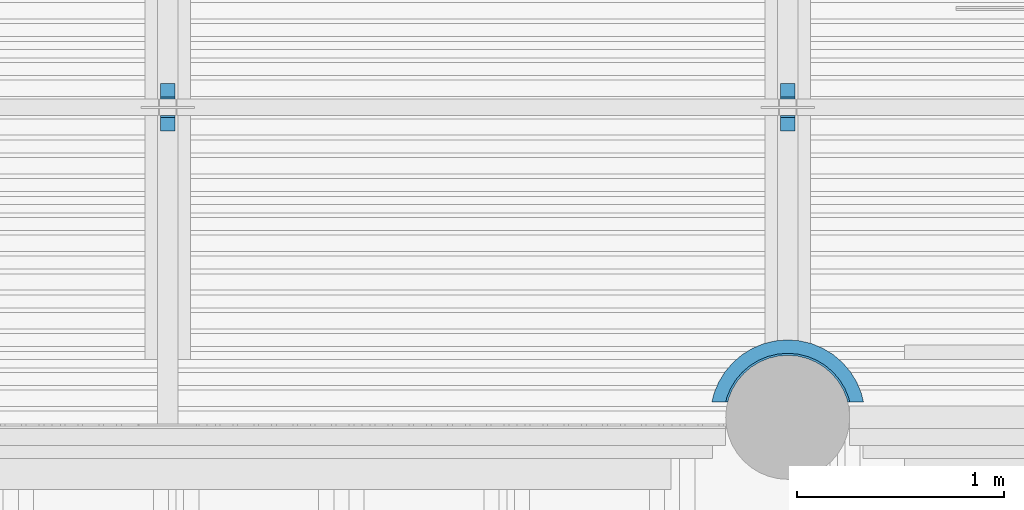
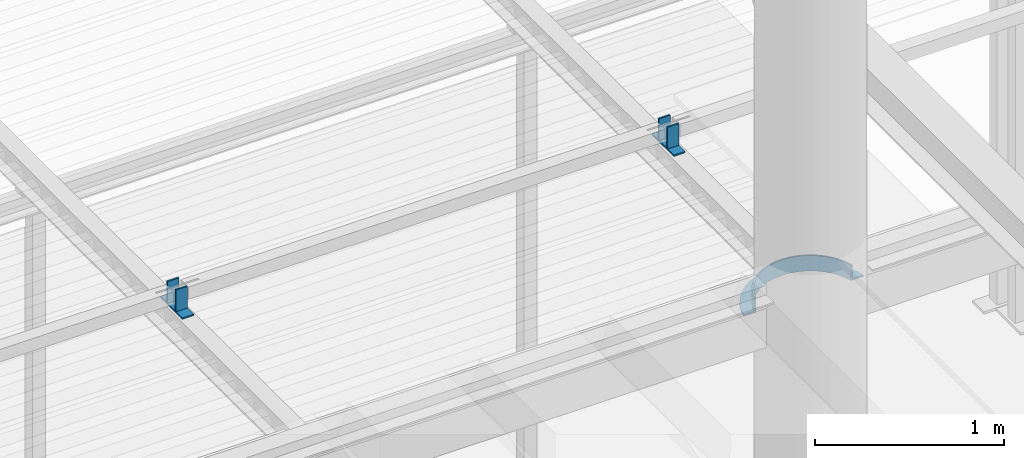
# One storey, part 30 of 98: 7 beams.
"""IFC2X3 building model written with IfcOpenShell, lengths in millimetres."""

from ifc_helpers import new_model, entity, si_unit, converted_unit, derived_unit, direction, frame, origin_with_axes, place, context, subcontext, project, spatial, faceted_brep, material, type_object, element, save


model = new_model("IFC2X3")

# Units and contexts
model_context = context("Model", 3, precision=0.01, world=frame((0.0, 4.29681676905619e-09, 0.0)), true_north=direction((4.01073788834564e-13, 1.0)))
plan_context = context("Plan", 3, precision=0.01, world=frame((0.0, 4.29681676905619e-09, 0.0)), true_north=direction((4.01073788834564e-13, 1.0)))
body_context = subcontext(model_context, "Body", "Model", "MODEL_VIEW")
ifc_project = project(units=[converted_unit("PLANEANGLEUNIT", "DEGREE", entity("IfcPositiveLengthMeasure", 0.0174532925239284), si_unit("PLANEANGLEUNIT", "RADIAN"), dimensions=[0, 0, 0, 0, 0, 0, 0]), si_unit("AREAUNIT", "SQUARE_METRE"), si_unit("LENGTHUNIT", "METRE", prefix="MILLI"), si_unit("MASSUNIT", "GRAM", prefix="KILO"), si_unit("POWERUNIT", "WATT"), si_unit("PRESSUREUNIT", "PASCAL"), si_unit("FORCEUNIT", "NEWTON", prefix="KILO"), si_unit("ELECTRICCURRENTUNIT", "AMPERE"), si_unit("THERMODYNAMICTEMPERATUREUNIT", "DEGREE_CELSIUS"), si_unit("TIMEUNIT", "SECOND"), si_unit("VOLUMEUNIT", "CUBIC_METRE"), derived_unit("LINEARVELOCITYUNIT", [(si_unit("LENGTHUNIT", "METRE"), 1), (si_unit("TIMEUNIT", "SECOND"), -1)]), derived_unit("VOLUMETRICFLOWRATEUNIT", [(si_unit("VOLUMEUNIT", "CUBIC_METRE"), 1), (si_unit("TIMEUNIT", "SECOND"), -1)]), derived_unit("THERMALTRANSMITTANCEUNIT", [(si_unit("POWERUNIT", "WATT"), 1), (si_unit("THERMODYNAMICTEMPERATUREUNIT", "KELVIN"), -1), (si_unit("AREAUNIT", "SQUARE_METRE"), -1)])], contexts=[model_context, plan_context])

# Site, building, storey
site_placement = place(None, frame((0.0, -4.29681676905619e-09, 0.0), z_axis=(0.0, 0.0, 1.0), x_axis=(1.0, 0.0, 0.0)))
site = spatial("IfcSite", under=ifc_project, at=site_placement, Name="Gardermoen", CompositionType="ELEMENT")
building_placement = place(site_placement, frame((0.0, 4.29681676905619e-09, 0.0), z_axis=(0.0, 0.0, 1.0), x_axis=(1.0, 0.0, 0.0)))
building = spatial("IfcBuilding", under=site, at=building_placement, Name="TS", CompositionType="ELEMENT")
storey_placement = place(building_placement, origin_with_axes())
storey = spatial("IfcBuildingStorey", under=building, at=storey_placement, Name="D", CompositionType="ELEMENT", Elevation=0.0)

# Beams
ifc_material = material(Name="STEEL/S355")
beam_type_1 = type_object("IfcBeamType", Name="L100*75*10", PredefinedType="NOTDEFINED")
beam_1_placement = place(storey_placement, frame((529337.500000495, 414500.000008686, 206955.001811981), z_axis=(0.0, 0.0, 1.0), x_axis=(-0.999999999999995, -9.99999902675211e-08, 0.0)))
element("IfcBeam", 1, at=beam_1_placement, inside=storey, type_object=beam_type_1, material=ifc_material, Name="STÅLBJELKE", ObjectType="L100*75*10", context=body_context, shape_type="Brep", body=[
    faceted_brep([(703.969918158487, -74.9815468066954, -40.0), (703.969918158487, -74.9815468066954, -50.0), (627.076084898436, -74.9834765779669, -50.0), (627.076084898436, -74.9834765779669, 50.0), (637.328595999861, -74.9832192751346, 50.0), (637.328595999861, -74.9832192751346, -40.0), (47.9318965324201, -74.9980331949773, 49.9979063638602), (47.9318965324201, -74.9980331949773, -50.0), (-28.9610138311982, -74.9999475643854, -50.0), (-28.9610138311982, -74.9999475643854, -40.0), (37.6795084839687, -74.9982884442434, -40.0), (37.6795084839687, -74.9982884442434, 50.0), (42.6725930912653, -95.7959826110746, 50.0), (42.6725930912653, -95.7959826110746, -40.0), (61.2882294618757, -140.73810440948, -40.0), (61.2882294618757, -140.73810440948, 50.0), (86.7051603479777, -182.214747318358, -40.0), (86.7051603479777, -182.214747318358, 50.0), (118.297555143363, -219.204689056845, -40.0), (118.297555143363, -219.204689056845, 50.0), (155.287496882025, -250.797083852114, -40.0), (155.287496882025, -250.797083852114, 50.0), (196.764170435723, -276.214022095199, -40.0), (196.764170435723, -276.214022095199, 50.0), (241.706282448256, -294.829654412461, -40.0), (241.706282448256, -294.829654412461, 50.0), (289.007208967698, -306.185602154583, -40.0), (289.007208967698, -306.185602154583, 50.0), (337.502244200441, -310.002244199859, -40.0), (337.502244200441, -310.002244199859, 50.0), (385.997279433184, -306.185602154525, -40.0), (385.997279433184, -306.185602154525, 50.0), (433.298205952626, -294.829654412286, -40.0), (433.298205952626, -294.829654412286, 50.0), (478.240317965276, -276.214022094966, -40.0), (478.240317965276, -276.214022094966, 50.0), (519.716991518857, -250.797083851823, -40.0), (519.716991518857, -250.797083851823, 50.0), (556.706933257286, -219.204689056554, -40.0), (556.706933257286, -219.204689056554, 50.0), (588.299328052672, -182.21474731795, -40.0), (588.299328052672, -182.21474731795, 50.0), (613.716266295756, -140.738073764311, -40.0), (613.716266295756, -140.738073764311, 50.0), (632.331898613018, -95.7959617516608, -40.0), (632.331898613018, -95.7959617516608, 50.0), (694.15057217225, -115.882066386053, -40.0), (671.63169036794, -170.247456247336, -40.0), (640.885432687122, -220.420788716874, -40.0), (602.668874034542, -265.166629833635, -40.0), (557.923032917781, -303.383188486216, -40.0), (507.749700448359, -334.129446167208, -40.0), (453.384310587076, -356.648327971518, -40.0), (396.165519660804, -370.385344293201, -40.0), (337.502244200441, -375.002244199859, -40.0), (278.838968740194, -370.38534429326, -40.0), (221.620177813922, -356.648327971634, -40.0), (167.254787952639, -334.129446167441, -40.0), (117.081455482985, -303.383188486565, -40.0), (72.3356143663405, -265.166629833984, -40.0), (34.1190557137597, -220.42078871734, -40.0), (3.37280538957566, -170.247486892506, -40.0), (-19.1460804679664, -115.882087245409, -40.0), (-19.1460804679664, -115.882087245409, -50.0), (3.37280538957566, -170.247486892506, -50.0), (34.1190557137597, -220.42078871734, -50.0), (72.3356143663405, -265.166629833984, -50.0), (117.081455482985, -303.383188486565, -50.0), (167.254787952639, -334.129446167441, -50.0), (221.620177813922, -356.648327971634, -50.0), (278.838968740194, -370.38534429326, -50.0), (337.502244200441, -375.002244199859, -50.0), (396.165519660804, -370.385344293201, -50.0), (453.384310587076, -356.648327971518, -50.0), (507.749700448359, -334.129446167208, -50.0), (557.923032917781, -303.383188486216, -50.0), (602.668874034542, -265.166629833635, -50.0), (640.885432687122, -220.420788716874, -50.0), (671.63169036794, -170.247456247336, -50.0), (694.15057217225, -115.882066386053, -50.0), (604.806201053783, -136.198168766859, -50.0), (622.821333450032, -92.7057918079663, -50.0), (580.209158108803, -176.336894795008, -50.0), (549.635865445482, -212.133621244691, -50.0), (513.839138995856, -242.706913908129, -50.0), (473.700412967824, -267.303956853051, -50.0), (430.208036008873, -285.319089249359, -50.0), (384.432934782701, -296.308718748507, -50.0), (337.502244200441, -300.002244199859, -50.0), (290.571553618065, -296.308718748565, -50.0), (244.796452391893, -285.319089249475, -50.0), (201.304075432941, -267.303956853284, -50.0), (161.16534940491, -242.706913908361, -50.0), (125.368622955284, -212.133621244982, -50.0), (94.7953302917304, -176.336894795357, -50.0), (70.1982947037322, -136.198199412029, -50.0), (52.1831582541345, -92.7058126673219, -50.0), (52.1831582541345, -92.7058126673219, 50.0), (70.1982947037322, -136.198199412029, 50.0), (94.7953302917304, -176.336894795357, 50.0), (125.368622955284, -212.133621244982, 50.0), (161.16534940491, -242.706913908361, 50.0), (201.304075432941, -267.303956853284, 50.0), (244.796452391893, -285.319089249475, 50.0), (290.571553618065, -296.308718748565, 50.0), (337.502244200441, -300.002244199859, 50.0), (384.432934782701, -296.308718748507, 50.0), (430.208036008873, -285.319089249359, 50.0), (473.700412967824, -267.303956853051, 50.0), (513.839138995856, -242.706913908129, 50.0), (549.635865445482, -212.133621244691, 50.0), (580.209158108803, -176.336894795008, 50.0), (604.806201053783, -136.198168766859, 50.0), (622.821333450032, -92.7057918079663, 50.0)], [[[0, 1, 2, 3, 4, 5]], [[6, 7, 8, 9, 10, 11]], [[12, 13, 14, 15]], [[15, 14, 16, 17]], [[17, 16, 18, 19]], [[19, 18, 20, 21]], [[21, 20, 22, 23]], [[23, 22, 24, 25]], [[25, 24, 26, 27]], [[27, 26, 28, 29]], [[29, 28, 30, 31]], [[31, 30, 32, 33]], [[33, 32, 34, 35]], [[35, 34, 36, 37]], [[37, 36, 38, 39]], [[39, 38, 40, 41]], [[41, 40, 42, 43]], [[43, 42, 44, 45]], [[45, 44, 5, 4]], [[44, 46, 0, 5]], [[42, 47, 46, 44]], [[40, 48, 47, 42]], [[38, 49, 48, 40]], [[36, 50, 49, 38]], [[34, 51, 50, 36]], [[32, 52, 51, 34]], [[30, 53, 52, 32]], [[28, 54, 53, 30]], [[26, 55, 54, 28]], [[24, 56, 55, 26]], [[22, 57, 56, 24]], [[20, 58, 57, 22]], [[18, 59, 58, 20]], [[16, 60, 59, 18]], [[14, 61, 60, 16]], [[13, 62, 61, 14]], [[62, 63, 64, 61]], [[61, 64, 65, 60]], [[60, 65, 66, 59]], [[59, 66, 67, 58]], [[58, 67, 68, 57]], [[57, 68, 69, 56]], [[56, 69, 70, 55]], [[55, 70, 71, 54]], [[54, 71, 72, 53]], [[53, 72, 73, 52]], [[52, 73, 74, 51]], [[51, 74, 75, 50]], [[50, 75, 76, 49]], [[49, 76, 77, 48]], [[48, 77, 78, 47]], [[47, 78, 79, 46]], [[78, 80, 81, 79]], [[77, 82, 80, 78]], [[76, 83, 82, 77]], [[75, 84, 83, 76]], [[74, 85, 84, 75]], [[73, 86, 85, 74]], [[72, 87, 86, 73]], [[71, 88, 87, 72]], [[70, 89, 88, 71]], [[69, 90, 89, 70]], [[68, 91, 90, 69]], [[67, 92, 91, 68]], [[66, 93, 92, 67]], [[65, 94, 93, 66]], [[64, 95, 94, 65]], [[63, 96, 95, 64]], [[96, 97, 98, 95]], [[95, 98, 99, 94]], [[94, 99, 100, 93]], [[93, 100, 101, 92]], [[92, 101, 102, 91]], [[91, 102, 103, 90]], [[90, 103, 104, 89]], [[89, 104, 105, 88]], [[88, 105, 106, 87]], [[87, 106, 107, 86]], [[86, 107, 108, 85]], [[85, 108, 109, 84]], [[84, 109, 110, 83]], [[83, 110, 111, 82]], [[82, 111, 112, 80]], [[80, 112, 113, 81]], [[81, 113, 3, 2]], [[79, 81, 2, 1]], [[46, 79, 1, 0]], [[113, 45, 4, 3]], [[112, 43, 45, 113]], [[111, 41, 43, 112]], [[110, 39, 41, 111]], [[109, 37, 39, 110]], [[108, 35, 37, 109]], [[107, 33, 35, 108]], [[106, 31, 33, 107]], [[105, 29, 31, 106]], [[104, 27, 29, 105]], [[103, 25, 27, 104]], [[102, 23, 25, 103]], [[101, 21, 23, 102]], [[100, 19, 21, 101]], [[99, 17, 19, 100]], [[98, 15, 17, 99]], [[97, 12, 15, 98]], [[12, 97, 6, 11]], [[13, 12, 11, 10]], [[62, 13, 10, 9]], [[63, 62, 9, 8]], [[96, 63, 8, 7]], [[97, 96, 7, 6]]]),
])
beam_type_2 = type_object("IfcBeamType", Name="PL10*70", PredefinedType="NOTDEFINED")
beam_2_placement = place(storey_placement, frame((525999.999847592, 415954.999738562, 207174.999928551), z_axis=(0.999999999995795, 0.0, 2.89999985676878e-06), x_axis=(2.89999985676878e-06, 0.0, -0.999999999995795)))
element("IfcBeam", 2, at=beam_2_placement, inside=storey, type_object=beam_type_2, material=ifc_material, Name="STÅLBJELKE", ObjectType="PL10*70", context=body_context, shape_type="Brep", body=[
    faceted_brep([(-2.3283064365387e-10, 5.0, -35.0), (2.3283064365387e-10, 5.0, 35.0000000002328), (139.999828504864, 5.0, 35.000000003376), (139.999828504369, 5.0, -34.9999999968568), (2.3283064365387e-10, -5.0, 35.0000000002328), (139.999828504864, -5.0, 35.000000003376), (-2.3283064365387e-10, -5.0, -35.0), (139.999828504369, -5.0, -34.9999999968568)], [[[0, 1, 2, 3]], [[1, 4, 5, 2]], [[4, 6, 7, 5]], [[6, 0, 3, 7]], [[5, 7, 3, 2]], [[6, 4, 1, 0]]]),
])
beam_3_placement = place(storey_placement, frame((526000.000074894, 415885.000270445, 207029.999925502), z_axis=(1.0, 0.0, 0.0), x_axis=(0.0, 1.0, 0.0)))
element("IfcBeam", 3, at=beam_3_placement, inside=storey, type_object=beam_type_2, material=ifc_material, Name="STÅLBJELKE", ObjectType="PL10*70", context=body_context, shape_type="Brep", body=[
    faceted_brep([(-2.3283064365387e-10, 5.0, -35.0), (2.3283064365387e-10, 5.0, 35.0000000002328), (229.999307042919, 5.0, 35.0000000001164), (229.999307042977, 5.0, -34.9999999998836), (2.3283064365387e-10, -5.0, 35.0000000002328), (229.999307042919, -5.0, 35.0000000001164), (-2.3283064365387e-10, -5.0, -35.0), (229.999307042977, -5.0, -34.9999999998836)], [[[0, 1, 2, 3]], [[1, 4, 5, 2]], [[4, 6, 7, 5]], [[6, 0, 3, 7]], [[5, 7, 3, 2]], [[6, 4, 1, 0]]]),
])
for number, where, z_axis, x_axis in (
    (4, (525999.999847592, 416044.999738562, 207174.999929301), (0.999999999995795, 0.0, 2.89999985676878e-06), (2.89999985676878e-06, 0.0, -0.999999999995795)),
    (5, (528999.999847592, 415954.999738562, 207174.999928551), (0.999999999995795, 0.0, 2.89999985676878e-06), (2.89999985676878e-06, 0.0, -0.999999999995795)),
):
    element("IfcBeam", number, at=place(storey_placement, frame(where, z_axis=z_axis, x_axis=x_axis)), inside=storey, type_object=beam_type_2, material=ifc_material, Name="STÅLBJELKE", ObjectType="PL10*70", context=body_context, shape_type="Brep", body=[
        faceted_brep([(-2.3283064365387e-10, 5.0, -35.0), (2.3283064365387e-10, 5.0, 35.0000000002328), (139.999828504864, 5.0, 35.000000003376), (139.999828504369, 5.0, -34.9999999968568), (2.3283064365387e-10, -5.0, 35.0000000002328), (139.999828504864, -5.0, 35.000000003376), (-2.3283064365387e-10, -5.0, -35.0), (139.999828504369, -5.0, -34.9999999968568)], [[[0, 1, 2, 3]], [[1, 4, 5, 2]], [[4, 6, 7, 5]], [[6, 0, 3, 7]], [[5, 7, 3, 2]], [[6, 4, 1, 0]]]),
    ])
beam_4_placement = place(storey_placement, frame((529000.000074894, 415885.000270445, 207029.999925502), z_axis=(1.0, 0.0, 0.0), x_axis=(0.0, 1.0, 0.0)))
element("IfcBeam", 6, at=beam_4_placement, inside=storey, type_object=beam_type_2, material=ifc_material, Name="STÅLBJELKE", ObjectType="PL10*70", context=body_context, shape_type="Brep", body=[
    faceted_brep([(-2.3283064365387e-10, 5.0, -35.0), (2.3283064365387e-10, 5.0, 35.0000000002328), (229.999307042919, 5.0, 35.0000000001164), (229.999307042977, 5.0, -34.9999999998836), (2.3283064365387e-10, -5.0, 35.0000000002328), (229.999307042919, -5.0, 35.0000000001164), (-2.3283064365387e-10, -5.0, -35.0), (229.999307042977, -5.0, -34.9999999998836)], [[[0, 1, 2, 3]], [[1, 4, 5, 2]], [[4, 6, 7, 5]], [[6, 0, 3, 7]], [[5, 7, 3, 2]], [[6, 4, 1, 0]]]),
])
beam_5_placement = place(storey_placement, frame((528999.999847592, 416044.999738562, 207174.999929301), z_axis=(0.999999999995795, 0.0, 2.89999985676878e-06), x_axis=(2.89999985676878e-06, 0.0, -0.999999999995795)))
element("IfcBeam", 7, at=beam_5_placement, inside=storey, type_object=beam_type_2, material=ifc_material, Name="STÅLBJELKE", ObjectType="PL10*70", context=body_context, shape_type="Brep", body=[
    faceted_brep([(-2.3283064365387e-10, 5.0, -35.0), (2.3283064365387e-10, 5.0, 35.0000000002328), (139.999828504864, 5.0, 35.000000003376), (139.999828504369, 5.0, -34.9999999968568), (2.3283064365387e-10, -5.0, 35.0000000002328), (139.999828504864, -5.0, 35.000000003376), (-2.3283064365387e-10, -5.0, -35.0), (139.999828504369, -5.0, -34.9999999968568)], [[[0, 1, 2, 3]], [[1, 4, 5, 2]], [[4, 6, 7, 5]], [[6, 0, 3, 7]], [[5, 7, 3, 2]], [[6, 4, 1, 0]]]),
])

save(model, "model.ifc")
